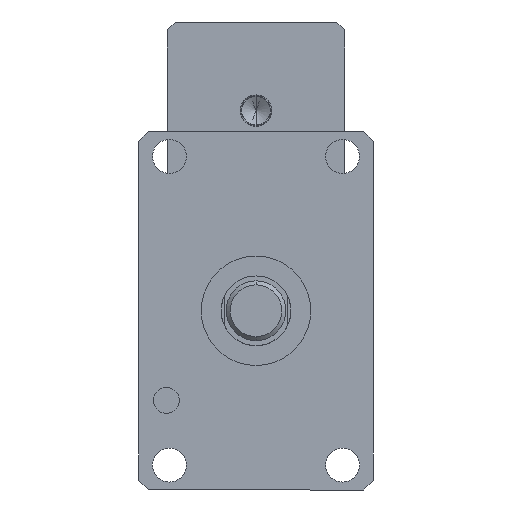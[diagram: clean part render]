
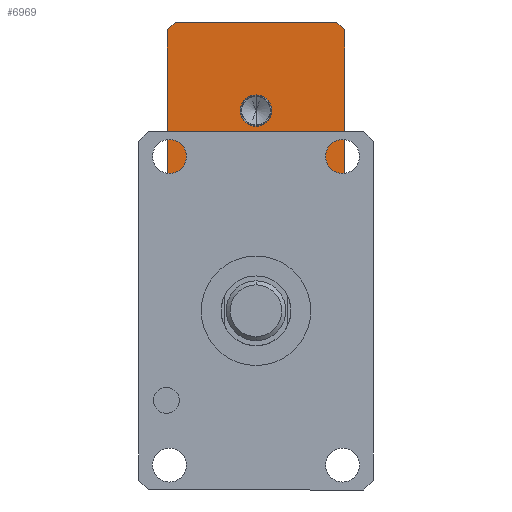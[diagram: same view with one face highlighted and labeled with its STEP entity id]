
A CAD part, front view. The second image highlights one B-rep face of the part: STEP entity #6969.
In plain terms, the highlighted planar face has unit normal (0, -1, 0).
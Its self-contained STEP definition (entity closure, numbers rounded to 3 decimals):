
#50 = CARTESIAN_POINT ( 'NONE',  ( 0., 260., 108.403 ) ) ;
#175 = VECTOR ( 'NONE', #11514, 1000. ) ;
#237 = CARTESIAN_POINT ( 'NONE',  ( 0., 260., 100.5 ) ) ;
#318 = DIRECTION ( 'NONE',  ( 0.707, 0., -0.707 ) ) ;
#341 = DIRECTION ( 'NONE',  ( 0., 0., -1. ) ) ;
#487 = DIRECTION ( 'NONE',  ( 1., 0., 0. ) ) ;
#1051 = VECTOR ( 'NONE', #11008, 1000. ) ;
#1055 = DIRECTION ( 'NONE',  ( -0.707, 0., 0.707 ) ) ;
#1193 = DIRECTION ( 'NONE',  ( 0., 0., -1. ) ) ;
#1290 = CARTESIAN_POINT ( 'NONE',  ( -44.5, 260., 60. ) ) ;
#1759 = ORIENTED_EDGE ( 'NONE', *, *, #11963, .T. ) ;
#2072 = DIRECTION ( 'NONE',  ( 1., 0., 0. ) ) ;
#2123 = VECTOR ( 'NONE', #487, 1000. ) ;
#2521 = VERTEX_POINT ( 'NONE', #11639 ) ;
#2522 = CARTESIAN_POINT ( 'NONE',  ( 44.5, 260., 60. ) ) ;
#2773 = LINE ( 'NONE', #8540, #175 ) ;
#3000 = CARTESIAN_POINT ( 'NONE',  ( 44.5, 260., 141. ) ) ;
#3052 = VERTEX_POINT ( 'NONE', #2522 ) ;
#3171 = ORIENTED_EDGE ( 'NONE', *, *, #12260, .T. ) ;
#3186 = LINE ( 'NONE', #4803, #4401 ) ;
#3346 = LINE ( 'NONE', #1290, #5651 ) ;
#4186 = CARTESIAN_POINT ( 'NONE',  ( -40.5, 260., 145. ) ) ;
#4295 = VERTEX_POINT ( 'NONE', #12476 ) ;
#4328 = CARTESIAN_POINT ( 'NONE',  ( 40.5, 260., 56. ) ) ;
#4340 = CARTESIAN_POINT ( 'NONE',  ( 44.5, 260., 56. ) ) ;
#4401 = VECTOR ( 'NONE', #11677, 1000. ) ;
#4551 = VECTOR ( 'NONE', #1055, 1000. ) ;
#4628 = ORIENTED_EDGE ( 'NONE', *, *, #11637, .T. ) ;
#4803 = CARTESIAN_POINT ( 'NONE',  ( 44.5, 260., 145. ) ) ;
#5019 = LINE ( 'NONE', #4340, #2123 ) ;
#5088 = CARTESIAN_POINT ( 'NONE',  ( 44.5, 260., 145. ) ) ;
#5101 = CARTESIAN_POINT ( 'NONE',  ( 44.5, 260., 145. ) ) ;
#5143 = DIRECTION ( 'NONE',  ( 0., 1., 0. ) ) ;
#5297 = EDGE_CURVE ( 'NONE', #8810, #5962, #12327, .T. ) ;
#5646 = AXIS2_PLACEMENT_3D ( 'NONE', #5101, #5143, #12014 ) ;
#5651 = VECTOR ( 'NONE', #318, 1000. ) ;
#5962 = VERTEX_POINT ( 'NONE', #6443 ) ;
#6071 = CARTESIAN_POINT ( 'NONE',  ( 40.5, 260., 145. ) ) ;
#6131 = ORIENTED_EDGE ( 'NONE', *, *, #11221, .T. ) ;
#6159 = DIRECTION ( 'NONE',  ( 0., -1., 0. ) ) ;
#6230 = LINE ( 'NONE', #8101, #1051 ) ;
#6443 = CARTESIAN_POINT ( 'NONE',  ( 0., 260., 92.597 ) ) ;
#6463 = AXIS2_PLACEMENT_3D ( 'NONE', #237, #7018, #1193 ) ;
#6547 = LINE ( 'NONE', #5088, #11764 ) ;
#6749 = ORIENTED_EDGE ( 'NONE', *, *, #12029, .F. ) ;
#6969 = ADVANCED_FACE ( 'NONE', ( #7891, #10507 ), #11024, .F. ) ;
#7018 = DIRECTION ( 'NONE',  ( 0., -1., 0. ) ) ;
#7135 = LINE ( 'NONE', #7884, #4551 ) ;
#7477 = VERTEX_POINT ( 'NONE', #6071 ) ;
#7884 = CARTESIAN_POINT ( 'NONE',  ( 40.5, 260., 145. ) ) ;
#7891 = FACE_BOUND ( 'NONE', #8443, .T. ) ;
#8067 = EDGE_LOOP ( 'NONE', ( #6131, #4628, #10903, #1759, #6749, #10518, #10427, #3171 ) ) ;
#8101 = CARTESIAN_POINT ( 'NONE',  ( -40.5, 260., 145. ) ) ;
#8443 = EDGE_LOOP ( 'NONE', ( #11666, #12101 ) ) ;
#8540 = CARTESIAN_POINT ( 'NONE',  ( -44.5, 260., 145. ) ) ;
#8810 = VERTEX_POINT ( 'NONE', #50 ) ;
#8893 = VERTEX_POINT ( 'NONE', #3000 ) ;
#8984 = VECTOR ( 'NONE', #12338, 1000. ) ;
#9141 = CIRCLE ( 'NONE', #6463, 7.903 ) ;
#9301 = VERTEX_POINT ( 'NONE', #12472 ) ;
#9392 = CARTESIAN_POINT ( 'NONE',  ( 44.5, 260., 60. ) ) ;
#10427 = ORIENTED_EDGE ( 'NONE', *, *, #12195, .F. ) ;
#10507 = FACE_OUTER_BOUND ( 'NONE', #8067, .T. ) ;
#10518 = ORIENTED_EDGE ( 'NONE', *, *, #12178, .T. ) ;
#10861 = AXIS2_PLACEMENT_3D ( 'NONE', #12034, #6159, #341 ) ;
#10903 = ORIENTED_EDGE ( 'NONE', *, *, #11791, .T. ) ;
#11008 = DIRECTION ( 'NONE',  ( -0.707, 0., -0.707 ) ) ;
#11024 = PLANE ( 'NONE',  #5646 ) ;
#11221 = EDGE_CURVE ( 'NONE', #9301, #2521, #2773, .T. ) ;
#11514 = DIRECTION ( 'NONE',  ( 0., 0., -1. ) ) ;
#11565 = EDGE_CURVE ( 'NONE', #5962, #8810, #9141, .T. ) ;
#11630 = LINE ( 'NONE', #9392, #8984 ) ;
#11637 = EDGE_CURVE ( 'NONE', #2521, #4295, #3346, .T. ) ;
#11639 = CARTESIAN_POINT ( 'NONE',  ( -44.5, 260., 60. ) ) ;
#11666 = ORIENTED_EDGE ( 'NONE', *, *, #11565, .F. ) ;
#11677 = DIRECTION ( 'NONE',  ( 0., 0., -1. ) ) ;
#11764 = VECTOR ( 'NONE', #2072, 1000. ) ;
#11791 = EDGE_CURVE ( 'NONE', #4295, #12389, #5019, .T. ) ;
#11963 = EDGE_CURVE ( 'NONE', #12389, #3052, #11630, .T. ) ;
#12014 = DIRECTION ( 'NONE',  ( 0., 0., 1. ) ) ;
#12029 = EDGE_CURVE ( 'NONE', #8893, #3052, #3186, .T. ) ;
#12034 = CARTESIAN_POINT ( 'NONE',  ( 0., 260., 100.5 ) ) ;
#12101 = ORIENTED_EDGE ( 'NONE', *, *, #5297, .F. ) ;
#12178 = EDGE_CURVE ( 'NONE', #8893, #7477, #7135, .T. ) ;
#12195 = EDGE_CURVE ( 'NONE', #12264, #7477, #6547, .T. ) ;
#12260 = EDGE_CURVE ( 'NONE', #12264, #9301, #6230, .T. ) ;
#12264 = VERTEX_POINT ( 'NONE', #4186 ) ;
#12327 = CIRCLE ( 'NONE', #10861, 7.903 ) ;
#12338 = DIRECTION ( 'NONE',  ( 0.707, 0., 0.707 ) ) ;
#12389 = VERTEX_POINT ( 'NONE', #4328 ) ;
#12472 = CARTESIAN_POINT ( 'NONE',  ( -44.5, 260., 141. ) ) ;
#12476 = CARTESIAN_POINT ( 'NONE',  ( -40.5, 260., 56. ) ) ;
